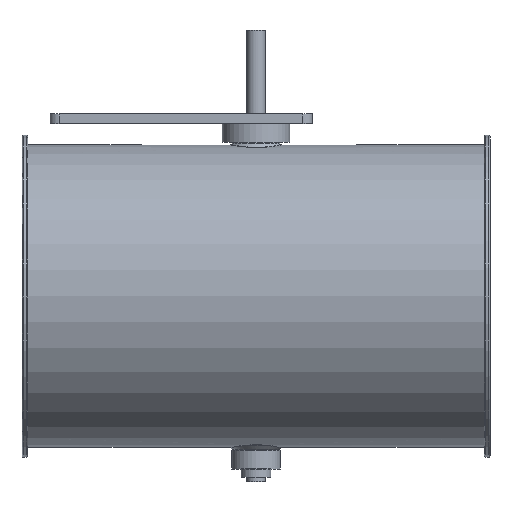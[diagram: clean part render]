
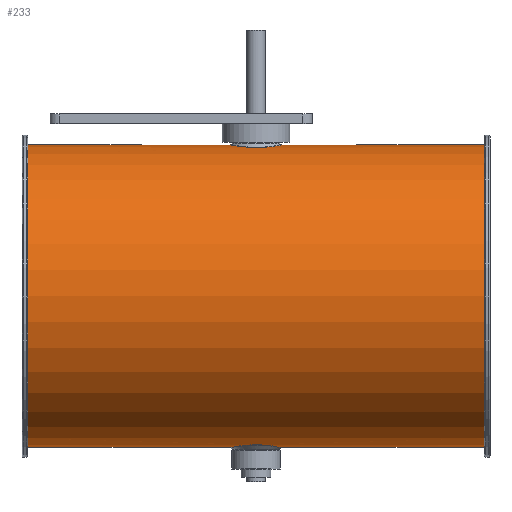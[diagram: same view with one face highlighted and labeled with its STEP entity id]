
A CAD part, top view. The second image highlights one B-rep face of the part: STEP entity #233.
In plain terms, the highlighted cylindrical face has radius 80.8 mm (diameter 161.6 mm), a full revolution.
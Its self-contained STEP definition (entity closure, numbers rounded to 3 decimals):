
#175=B_SPLINE_CURVE_WITH_KNOTS('',3,(#1555,#1556,#1557,#1558,#1559,#1560,
#1561,#1562,#1563,#1564,#1565,#1566,#1567,#1568,#1569,#1570,#1571,#1572,
#1573,#1574,#1575,#1576),.UNSPECIFIED.,.T.,.F.,(2,2,2,2,2,2,2,2,2,2,2,2,
2),(-0.063,0.,0.125,0.25,0.375,0.437,
0.5,0.625,0.75,0.875,0.938,1.,1.125),
 .UNSPECIFIED.);
#176=B_SPLINE_CURVE_WITH_KNOTS('',3,(#1578,#1579,#1580,#1581,#1582,#1583,
#1584,#1585,#1586,#1587,#1588,#1589,#1590,#1591,#1592,#1593,#1594,#1595,
#1596,#1597,#1598,#1599),.UNSPECIFIED.,.T.,.F.,(2,2,2,2,2,2,2,2,2,2,2,2,
2),(-0.125,0.,0.062,0.125,0.25,0.375,0.5,0.563,
0.625,0.75,0.875,1.,1.063),.UNSPECIFIED.);
#202=CYLINDRICAL_SURFACE('',#1096,80.8);
#233=ADVANCED_FACE('',(#345,#346,#347,#348),#202,.T.);
#345=FACE_BOUND('',#479,.T.);
#346=FACE_BOUND('',#480,.T.);
#347=FACE_BOUND('',#481,.T.);
#348=FACE_BOUND('',#482,.T.);
#479=EDGE_LOOP('',(#627));
#480=EDGE_LOOP('',(#628));
#481=EDGE_LOOP('',(#629));
#482=EDGE_LOOP('',(#630));
#627=ORIENTED_EDGE('',*,*,#915,.T.);
#628=ORIENTED_EDGE('',*,*,#916,.T.);
#629=ORIENTED_EDGE('',*,*,#917,.T.);
#630=ORIENTED_EDGE('',*,*,#918,.F.);
#825=VERTEX_POINT('',#1554);
#826=VERTEX_POINT('',#1577);
#827=VERTEX_POINT('',#1600);
#828=VERTEX_POINT('',#1602);
#915=EDGE_CURVE('',#825,#825,#1017,.T.);
#916=EDGE_CURVE('',#826,#826,#175,.T.);
#917=EDGE_CURVE('',#827,#827,#176,.T.);
#918=EDGE_CURVE('',#828,#828,#1018,.T.);
#1017=CIRCLE('',#1094,80.8);
#1018=CIRCLE('',#1095,80.8);
#1094=AXIS2_PLACEMENT_3D('',#1553,#1250,#1251);
#1095=AXIS2_PLACEMENT_3D('',#1601,#1252,#1253);
#1096=AXIS2_PLACEMENT_3D('',#1603,#1254,#1255);
#1250=DIRECTION('',(1.,0.,0.));
#1251=DIRECTION('',(0.,0.,1.));
#1252=DIRECTION('',(1.,0.,0.));
#1253=DIRECTION('',(0.,0.,1.));
#1254=DIRECTION('',(1.,0.,0.));
#1255=DIRECTION('',(0.,0.,-1.));
#1553=CARTESIAN_POINT('',(-122.,-38.3,125.));
#1554=CARTESIAN_POINT('',(-122.,-38.3,205.8));
#1555=CARTESIAN_POINT('',(-2.062,-117.599,109.488));
#1556=CARTESIAN_POINT('',(-7.671,-117.937,111.287));
#1557=CARTESIAN_POINT('',(-10.71,-118.443,114.144));
#1558=CARTESIAN_POINT('',(-14.158,-119.079,121.063));
#1559=CARTESIAN_POINT('',(-14.603,-119.187,125.197));
#1560=CARTESIAN_POINT('',(-12.776,-118.819,132.714));
#1561=CARTESIAN_POINT('',(-10.485,-118.352,136.179));
#1562=CARTESIAN_POINT('',(-5.655,-117.819,139.371));
#1563=CARTESIAN_POINT('',(-3.811,-117.676,140.104));
#1564=CARTESIAN_POINT('',(0.052,-117.565,140.679));
#1565=CARTESIAN_POINT('',(2.042,-117.599,140.514));
#1566=CARTESIAN_POINT('',(7.634,-117.934,138.733));
#1567=CARTESIAN_POINT('',(10.688,-118.439,135.895));
#1568=CARTESIAN_POINT('',(14.17,-119.081,128.919));
#1569=CARTESIAN_POINT('',(14.607,-119.188,124.81));
#1570=CARTESIAN_POINT('',(12.77,-118.818,117.267));
#1571=CARTESIAN_POINT('',(10.468,-118.349,113.802));
#1572=CARTESIAN_POINT('',(5.638,-117.818,110.621));
#1573=CARTESIAN_POINT('',(3.774,-117.675,109.887));
#1574=CARTESIAN_POINT('',(-0.058,-117.565,109.324));
#1575=CARTESIAN_POINT('',(-2.062,-117.599,109.488));
#1576=CARTESIAN_POINT('',(-7.671,-117.937,111.287));
#1577=CARTESIAN_POINT('',(-3.932,-117.712,110.088));
#1578=CARTESIAN_POINT('',(-7.672,41.337,111.288));
#1579=CARTESIAN_POINT('',(-2.062,40.999,109.488));
#1580=CARTESIAN_POINT('',(-0.076,40.965,109.323));
#1581=CARTESIAN_POINT('',(3.765,41.074,109.884));
#1582=CARTESIAN_POINT('',(5.623,41.216,110.612));
#1583=CARTESIAN_POINT('',(10.487,41.751,113.813));
#1584=CARTESIAN_POINT('',(12.778,42.219,117.279));
#1585=CARTESIAN_POINT('',(14.609,42.588,124.842));
#1586=CARTESIAN_POINT('',(14.155,42.478,128.954));
#1587=CARTESIAN_POINT('',(10.699,41.841,135.869));
#1588=CARTESIAN_POINT('',(7.658,41.337,138.712));
#1589=CARTESIAN_POINT('',(2.088,41.001,140.505));
#1590=CARTESIAN_POINT('',(0.12,40.964,140.68));
#1591=CARTESIAN_POINT('',(-3.773,41.074,140.118));
#1592=CARTESIAN_POINT('',(-5.62,41.216,139.389));
#1593=CARTESIAN_POINT('',(-10.475,41.749,136.197));
#1594=CARTESIAN_POINT('',(-12.769,42.218,132.74));
#1595=CARTESIAN_POINT('',(-14.61,42.589,125.171));
#1596=CARTESIAN_POINT('',(-14.173,42.481,121.088));
#1597=CARTESIAN_POINT('',(-10.689,41.839,114.106));
#1598=CARTESIAN_POINT('',(-7.672,41.337,111.288));
#1599=CARTESIAN_POINT('',(-2.062,40.999,109.488));
#1600=CARTESIAN_POINT('',(-3.932,41.112,110.088));
#1601=CARTESIAN_POINT('',(122.,-38.3,125.));
#1602=CARTESIAN_POINT('',(122.,-38.3,205.8));
#1603=CARTESIAN_POINT('',(-125.,-38.3,125.));
